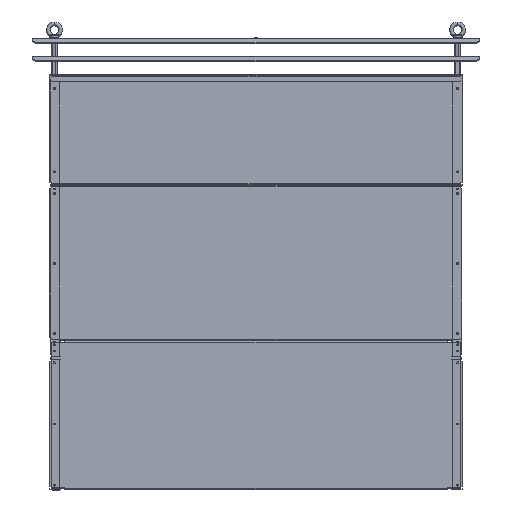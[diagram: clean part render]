
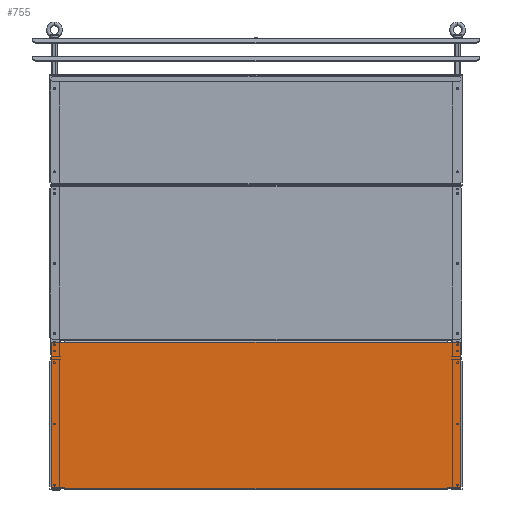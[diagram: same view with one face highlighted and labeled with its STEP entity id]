
A CAD part, top view. The second image highlights one B-rep face of the part: STEP entity #755.
In plain terms, the highlighted planar face has unit normal (0, 0, 1).
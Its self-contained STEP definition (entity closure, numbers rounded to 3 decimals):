
#755=ADVANCED_FACE('NONE',(#4342),#4343,.T.);
#4342=FACE_OUTER_BOUND('',#15248,.T.);
#4343=PLANE('',#15249);
#15248=EDGE_LOOP('',(#27467,#27468,#27469,#27470,#27471,#27472,#27473,#27474,#27475,#27476,#27477,#27478));
#15249=AXIS2_PLACEMENT_3D('',#27479,#27480,#27481);
#27467=ORIENTED_EDGE('',*,*,#47609,.F.);
#27468=ORIENTED_EDGE('',*,*,#47610,.T.);
#27469=ORIENTED_EDGE('',*,*,#47611,.F.);
#27470=ORIENTED_EDGE('',*,*,#47612,.F.);
#27471=ORIENTED_EDGE('',*,*,#47613,.F.);
#27472=ORIENTED_EDGE('',*,*,#47614,.F.);
#27473=ORIENTED_EDGE('',*,*,#47615,.F.);
#27474=ORIENTED_EDGE('',*,*,#47616,.T.);
#27475=ORIENTED_EDGE('',*,*,#47617,.F.);
#27476=ORIENTED_EDGE('',*,*,#47618,.F.);
#27477=ORIENTED_EDGE('',*,*,#47619,.F.);
#27478=ORIENTED_EDGE('',*,*,#47620,.F.);
#27479=CARTESIAN_POINT('',(-883.05,356.,1.));
#27480=DIRECTION('',(0.,0.,1.0));
#27481=DIRECTION('',(1.0,0.0,0.));
#47609=EDGE_CURVE('NONE',#57258,#57259,#57260,.T.);
#47610=EDGE_CURVE('NONE',#57258,#57261,#57262,.T.);
#47611=EDGE_CURVE('NONE',#57263,#57261,#57264,.T.);
#47612=EDGE_CURVE('NONE',#57265,#57263,#57266,.T.);
#47613=EDGE_CURVE('NONE',#57267,#57265,#57268,.T.);
#47614=EDGE_CURVE('NONE',#57269,#57267,#57270,.T.);
#47615=EDGE_CURVE('NONE',#57271,#57269,#57272,.T.);
#47616=EDGE_CURVE('NONE',#57271,#57273,#57274,.T.);
#47617=EDGE_CURVE('NONE',#57275,#57273,#57276,.T.);
#47618=EDGE_CURVE('NONE',#57277,#57275,#57278,.T.);
#47619=EDGE_CURVE('NONE',#57279,#57277,#57280,.T.);
#47620=EDGE_CURVE('NONE',#57259,#57279,#57281,.T.);
#57258=VERTEX_POINT('NONE',#75321);
#57259=VERTEX_POINT('NONE',#75322);
#57260=LINE('',#75323,#75324);
#57261=VERTEX_POINT('NONE',#75325);
#57262=LINE('',#75326,#75327);
#57263=VERTEX_POINT('NONE',#75328);
#57264=LINE('',#75329,#75330);
#57265=VERTEX_POINT('NONE',#75331);
#57266=LINE('',#75332,#75333);
#57267=VERTEX_POINT('NONE',#75334);
#57268=LINE('',#75335,#75336);
#57269=VERTEX_POINT('NONE',#75337);
#57270=LINE('',#75338,#75339);
#57271=VERTEX_POINT('NONE',#75340);
#57272=LINE('',#75341,#75342);
#57273=VERTEX_POINT('NONE',#75343);
#57274=LINE('',#75344,#75345);
#57275=VERTEX_POINT('NONE',#75346);
#57276=LINE('',#75347,#75348);
#57277=VERTEX_POINT('NONE',#75349);
#57278=LINE('',#75350,#75351);
#57279=VERTEX_POINT('NONE',#75352);
#57280=LINE('',#75353,#75354);
#57281=LINE('',#75355,#75356);
#75321=CARTESIAN_POINT('',(-11.05,336.5,1.));
#75322=CARTESIAN_POINT('',(-11.05,336.0,1.));
#75323=CARTESIAN_POINT('',(-11.05,336.0,1.));
#75324=VECTOR('',#92773,1000.0);
#75325=CARTESIAN_POINT('',(-883.05,336.5,1.));
#75326=CARTESIAN_POINT('',(-883.05,336.5,1.));
#75327=VECTOR('',#92774,1000.0);
#75328=CARTESIAN_POINT('',(-883.05,336.,1.));
#75329=CARTESIAN_POINT('',(-883.05,356.,1.));
#75330=VECTOR('',#92775,1000.0);
#75331=CARTESIAN_POINT('',(-913.05,336.,1.));
#75332=CARTESIAN_POINT('',(-883.05,336.,1.));
#75333=VECTOR('',#92776,1000.0);
#75334=CARTESIAN_POINT('',(-913.05,4.,1.));
#75335=CARTESIAN_POINT('',(-913.05,336.,1.));
#75336=VECTOR('',#92777,1000.0);
#75337=CARTESIAN_POINT('',(-883.05,4.,1.));
#75338=CARTESIAN_POINT('',(-913.05,4.,1.));
#75339=VECTOR('',#92778,1000.0);
#75340=CARTESIAN_POINT('',(-883.05,3.5,1.));
#75341=CARTESIAN_POINT('',(-883.05,4.,1.));
#75342=VECTOR('',#92779,1000.0);
#75343=CARTESIAN_POINT('',(-11.05,3.5,1.));
#75344=CARTESIAN_POINT('',(-883.05,3.5,1.));
#75345=VECTOR('',#92780,1000.0);
#75346=CARTESIAN_POINT('',(-11.05,4.,1.));
#75347=CARTESIAN_POINT('',(-11.05,-16.,1.));
#75348=VECTOR('',#92781,1000.0);
#75349=CARTESIAN_POINT('',(18.95,4.,1.));
#75350=CARTESIAN_POINT('',(-11.05,4.,1.));
#75351=VECTOR('',#92782,1000.0);
#75352=CARTESIAN_POINT('',(18.95,336.0,1.));
#75353=CARTESIAN_POINT('',(18.95,4.,1.));
#75354=VECTOR('',#92783,1000.0);
#75355=CARTESIAN_POINT('',(18.95,336.0,1.));
#75356=VECTOR('',#92784,1000.0);
#92773=DIRECTION('',(0.,-1.0,0.));
#92774=DIRECTION('',(-1.0,0.,0.));
#92775=DIRECTION('',(0.,1.0,0.));
#92776=DIRECTION('',(1.0,0.,0.));
#92777=DIRECTION('',(0.,1.0,0.));
#92778=DIRECTION('',(-1.0,0.,0.));
#92779=DIRECTION('',(0.,1.0,0.));
#92780=DIRECTION('',(1.0,0.,0.));
#92781=DIRECTION('',(0.,-1.0,0.));
#92782=DIRECTION('',(-1.0,0.,0.));
#92783=DIRECTION('',(0.,-1.0,0.));
#92784=DIRECTION('',(1.0,0.,0.));
